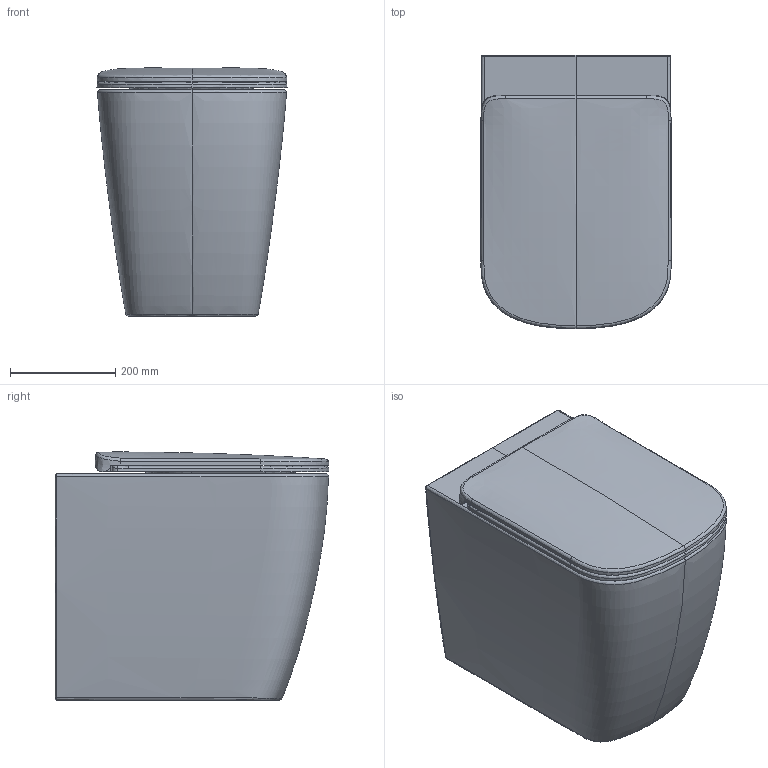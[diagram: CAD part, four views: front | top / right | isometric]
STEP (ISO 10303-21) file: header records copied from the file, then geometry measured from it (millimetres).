
FILE_DESCRIPTION(/* description */ (''),/* implementation_level */ '2;1');
FILE_NAME(/* name */ 'PY117S-RS',/* time_stamp */ '2024-05-02T17:26:32+02:00',/* author */ (''),/* organization */ (''),/* preprocessor_version */ 'ST-DEVELOPER v16.5',/* originating_system */ 'Rhino 7.36',/* authorisation */ '');
FILE_SCHEMA (('CONFIG_CONTROL_DESIGN'));
Length unit declared in the file: millimetre
Products named in the file (1): Document
Bounding box: 361.5 x 520.32 x 471.85 mm (x, y, z)
Volume: 53646417.1 mm3; surface area: 1630026.1 mm2
Topology: 3 solids, 3 shells, 438 faces, 1038 edges, 603 vertices
Faces by surface type: bspline 262, cylinder 113, plane 63
Entity records: 77887 total; most frequent: CARTESIAN_POINT 71218, ORIENTED_EDGE 2044, EDGE_CURVE 1022, B_SPLINE_CURVE_WITH_KNOTS 757, VERTEX_POINT 603, EDGE_LOOP 457, ADVANCED_FACE 438, FACE_OUTER_BOUND 438
